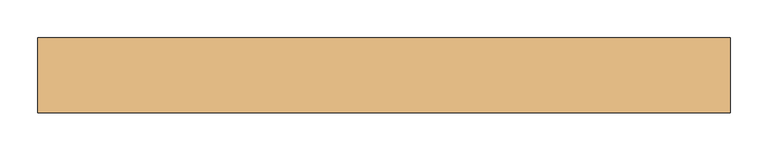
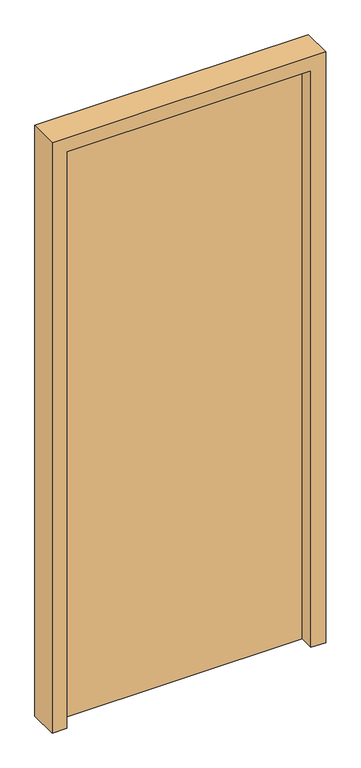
"""IFC4 building model written with IfcOpenShell, lengths in millimetres: door geometry, (Dr)_ДУ(распашная)_1Ст_Прямоугольная : (Вн)_ДГ(0.92х2.1(h))."""

from ifc_helpers import new_model, si_unit, frame, origin, origin_with_axes, place, context, project, spatial, polyline, outline, extrude, source, transform, mapped, element, save


def door_8b928317(model_context):
    return source(origin(), model_context, "Body", "SweptSolid", [
        extrude(outline(polyline([(-410.0, 100.0), (410.0, 100.0), (410.0, 50.0), (-410.0, 50.0), (-410.0, 100.0)])), origin_with_axes(), (0.0, 0.0, 1.0), 2050.0),
        extrude(outline(polyline([(0.0, -460.0), (0.0, -410.0), (2050.0, -410.0), (2050.0, 410.0), (0.0, 410.0), (0.0, 460.0), (2100.0, 460.0), (2100.0, -460.0), (0.0, -460.0)])), frame((0.0, 0.0, 0.0), z_axis=(0.0, 1.0, 0.0), x_axis=(0.0, 0.0, 1.0)), (0.0, 0.0, 1.0), 100.0),
    ])


if __name__ == "__main__":
    model = new_model("IFC4")
    model_context = context("Model", 3, world=origin())
    ifc_project = project(units=[si_unit("LENGTHUNIT", "METRE", prefix="MILLI")], contexts=[model_context])
    site = spatial("IfcSite", under=ifc_project)
    building = spatial("IfcBuilding", under=site)
    placement = place(None, origin())
    door_shape = door_8b928317(model_context)
    element("IfcDoor", 1, ObjectType="(Dr)_ДУ(распашная)_1Ст_Прямоугольная : (Вн)_ДГ(0.92х2.1(h))", at=placement, inside=building, context=model_context, shape_type="MappedRepresentation", body=[
        mapped(door_shape, transform((0.0, 0.0, 0.0), x_axis=(1.0, 0.0, 0.0), y_axis=(0.0, 1.0, 0.0), z_axis=(0.0, 0.0, 1.0))),
    ])
    save(model, "model.ifc")
